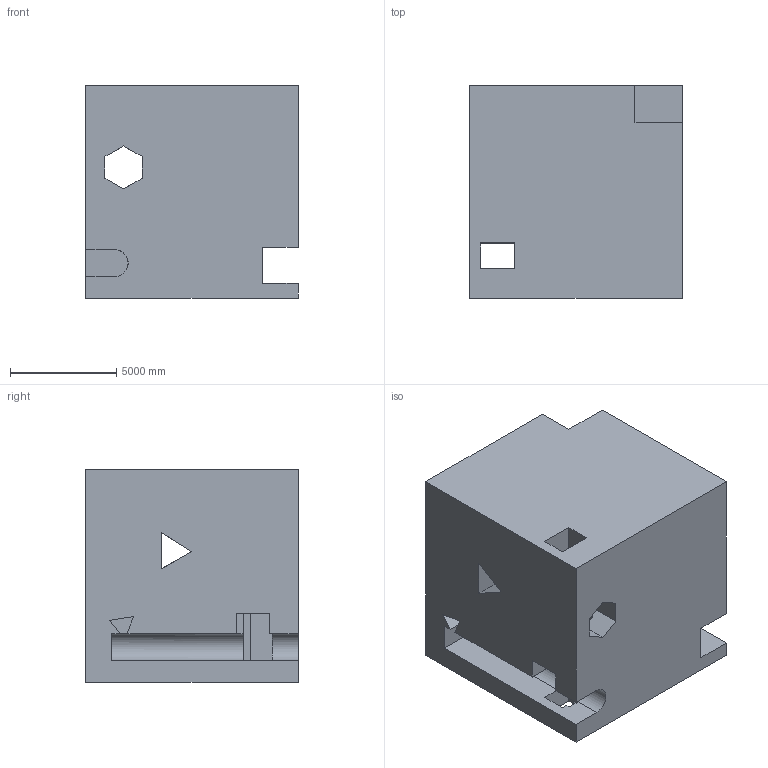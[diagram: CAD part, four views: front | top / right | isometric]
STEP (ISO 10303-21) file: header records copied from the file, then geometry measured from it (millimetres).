
FILE_DESCRIPTION (( 'STEP AP203' ), '1' );
FILE_NAME ('951.STEP', '2022-07-29T14:37:02', ( 'user' ), ( '' ), 'SwSTEP 2.0', 'SolidWorks 2021', '' );
FILE_SCHEMA (( 'CONFIG_CONTROL_DESIGN' ));
Length unit declared in the file: centimetre
Products named in the file (1): 951
Bounding box: 10000 x 10000 x 10000 mm (x, y, z)
Volume: 873544834979.5 mm3; surface area: 807585000.5 mm2
Topology: 1 solids, 1 shells, 61 faces, 198 edges, 132 vertices
Faces by surface type: plane 56, cylinder 5
Entity records: 2249 total; most frequent: CARTESIAN_POINT 401, ORIENTED_EDGE 396, DIRECTION 331, EDGE_CURVE 198, VECTOR 183, LINE 183, VERTEX_POINT 132, AXIS2_PLACEMENT_3D 74
